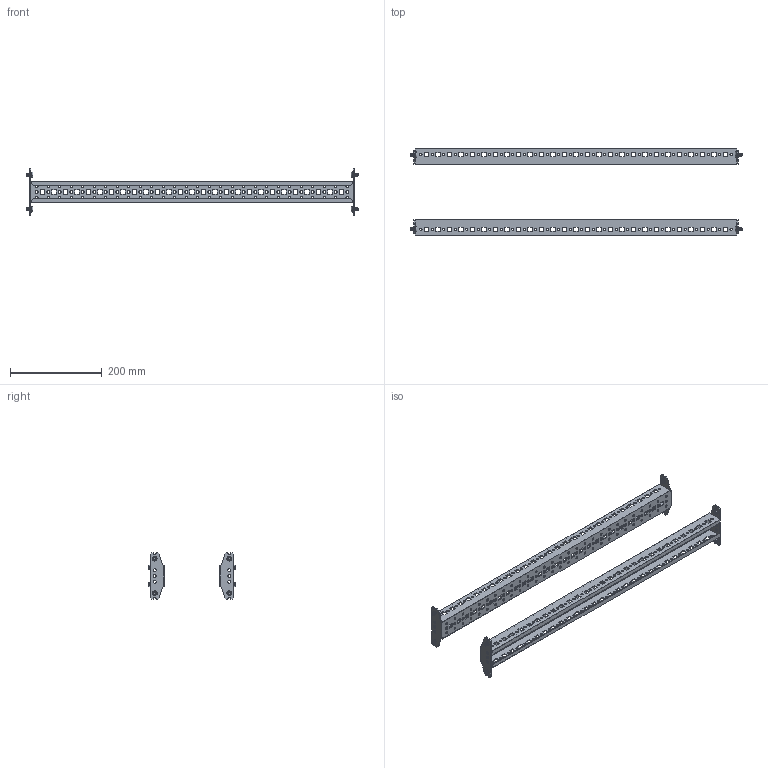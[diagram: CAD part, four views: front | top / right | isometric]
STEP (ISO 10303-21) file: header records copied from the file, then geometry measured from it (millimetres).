
FILE_DESCRIPTION (( 'STEP AP214' ), '1' );
FILE_NAME ('FO-00-VRC-080 Ðåéêà ìîíòàæíàÿ òèïà C 800 ìì (2 øò.óïàê.).STEP', '2025-07-31T12:32:31', ( '' ), ( '' ), 'SwSTEP 2.0', 'SolidWorks 2023', '' );
FILE_SCHEMA (( 'AUTOMOTIVE_DESIGN' ));
Length unit declared in the file: millimetre
Products named in the file (3): Рейка монтажная типа C 800 мм; FO-00-VRC-080 Рейка монтажная типа C 800 мм (2 шт.упак.); Винт М6х10 800 IEK
Assembly tree (6 placements, depth 2):
  FO-00-VRC-080 Рейка монтажная типа C 800 мм (2 шт.упак.)
    Рейка монтажная типа C 800 мм  x2
    Винт М6х10 800 IEK  x4
Bounding box: 722 x 188 x 101.5 mm (x, y, z)
Volume: 332226.2 mm3; surface area: 363363.2 mm2
Topology: 10 solids, 10 shells, 2444 faces, 6392 edges, 3984 vertices
Faces by surface type: plane 900, cylinder 896, cone 616, torus 32
Entity records: 31659 total; most frequent: DIRECTION 5460, CARTESIAN_POINT 5375, ORIENTED_EDGE 5308, EDGE_CURVE 2654, AXIS2_PLACEMENT_3D 1849, LINE 1762, VECTOR 1762, VERTEX_POINT 1700
